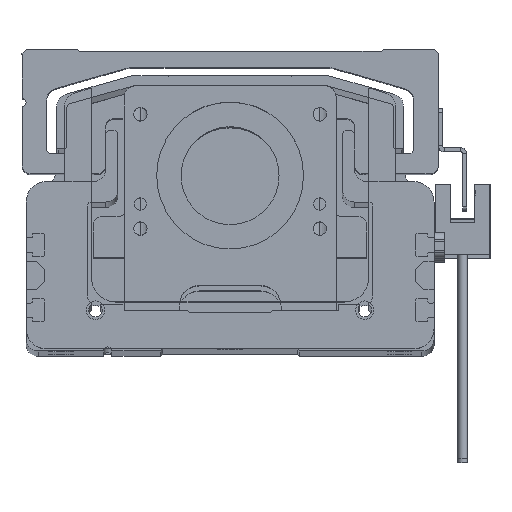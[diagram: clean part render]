
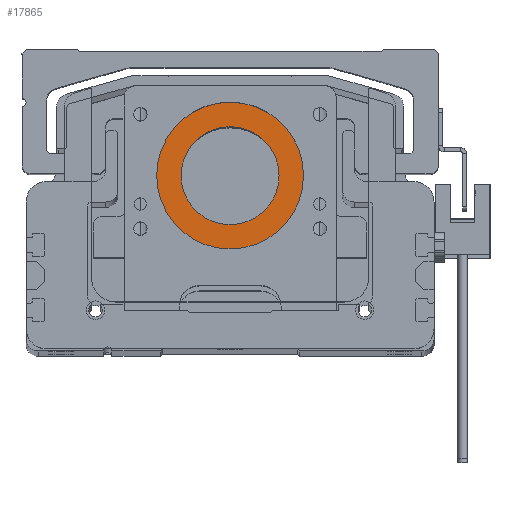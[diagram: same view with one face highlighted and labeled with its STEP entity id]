
A CAD part, top view. The second image highlights one B-rep face of the part: STEP entity #17865.
In plain terms, the highlighted planar face has unit normal (0, 0, 1).
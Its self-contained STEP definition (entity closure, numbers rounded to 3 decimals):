
#776 = DIRECTION ( 'NONE',  ( 1., 0., 0. ) ) ;
#925 = ORIENTED_EDGE ( 'NONE', *, *, #15389, .T. ) ;
#1534 = AXIS2_PLACEMENT_3D ( 'NONE', #29976, #29948, #29910 ) ;
#3740 = CARTESIAN_POINT ( 'NONE',  ( 18., 33., 2.5 ) ) ;
#4328 = VERTEX_POINT ( 'NONE', #3740 ) ;
#4519 = EDGE_CURVE ( 'NONE', #25854, #4328, #31102, .T. ) ;
#4636 = FACE_OUTER_BOUND ( 'NONE', #23133, .T. ) ;
#5248 = DIRECTION ( 'NONE',  ( 0., 0., 1. ) ) ;
#5593 = EDGE_LOOP ( 'NONE', ( #20972, #31629 ) ) ;
#6134 = ORIENTED_EDGE ( 'NONE', *, *, #4519, .T. ) ;
#8603 = CARTESIAN_POINT ( 'NONE',  ( -12., 33., 2.5 ) ) ;
#8648 = CARTESIAN_POINT ( 'NONE',  ( 0., 33., 2.5 ) ) ;
#12400 = VERTEX_POINT ( 'NONE', #14383 ) ;
#13648 = PLANE ( 'NONE',  #14217 ) ;
#14217 = AXIS2_PLACEMENT_3D ( 'NONE', #8648, #30731, #16130 ) ;
#14383 = CARTESIAN_POINT ( 'NONE',  ( 12., 33., 2.5 ) ) ;
#14983 = AXIS2_PLACEMENT_3D ( 'NONE', #30651, #16039, #776 ) ;
#15389 = EDGE_CURVE ( 'NONE', #4328, #25854, #26163, .T. ) ;
#16039 = DIRECTION ( 'NONE',  ( 0., 0., 1. ) ) ;
#16130 = DIRECTION ( 'NONE',  ( 1., 0., 0. ) ) ;
#17191 = EDGE_CURVE ( 'NONE', #21581, #12400, #23477, .T. ) ;
#17865 = ADVANCED_FACE ( 'NONE', ( #4636, #23814 ), #13648, .T. ) ;
#19745 = AXIS2_PLACEMENT_3D ( 'NONE', #22796, #22728, #22693 ) ;
#20066 = CIRCLE ( 'NONE', #14983, 12. ) ;
#20268 = CARTESIAN_POINT ( 'NONE',  ( 0., 33., 2.5 ) ) ;
#20972 = ORIENTED_EDGE ( 'NONE', *, *, #23652, .F. ) ;
#21581 = VERTEX_POINT ( 'NONE', #8603 ) ;
#22693 = DIRECTION ( 'NONE',  ( 1., 0., 0. ) ) ;
#22712 = DIRECTION ( 'NONE',  ( 1., 0., 0. ) ) ;
#22728 = DIRECTION ( 'NONE',  ( 0., 0., 1. ) ) ;
#22796 = CARTESIAN_POINT ( 'NONE',  ( 0., 33., 2.5 ) ) ;
#23133 = EDGE_LOOP ( 'NONE', ( #925, #6134 ) ) ;
#23477 = CIRCLE ( 'NONE', #29157, 12. ) ;
#23652 = EDGE_CURVE ( 'NONE', #12400, #21581, #20066, .T. ) ;
#23814 = FACE_BOUND ( 'NONE', #5593, .T. ) ;
#25854 = VERTEX_POINT ( 'NONE', #30107 ) ;
#26163 = CIRCLE ( 'NONE', #19745, 18. ) ;
#29157 = AXIS2_PLACEMENT_3D ( 'NONE', #20268, #5248, #22712 ) ;
#29910 = DIRECTION ( 'NONE',  ( 1., 0., 0. ) ) ;
#29948 = DIRECTION ( 'NONE',  ( 0., 0., 1. ) ) ;
#29976 = CARTESIAN_POINT ( 'NONE',  ( 0., 33., 2.5 ) ) ;
#30107 = CARTESIAN_POINT ( 'NONE',  ( -18., 33., 2.5 ) ) ;
#30651 = CARTESIAN_POINT ( 'NONE',  ( 0., 33., 2.5 ) ) ;
#30731 = DIRECTION ( 'NONE',  ( 0., 0., 1. ) ) ;
#31102 = CIRCLE ( 'NONE', #1534, 18. ) ;
#31629 = ORIENTED_EDGE ( 'NONE', *, *, #17191, .F. ) ;
